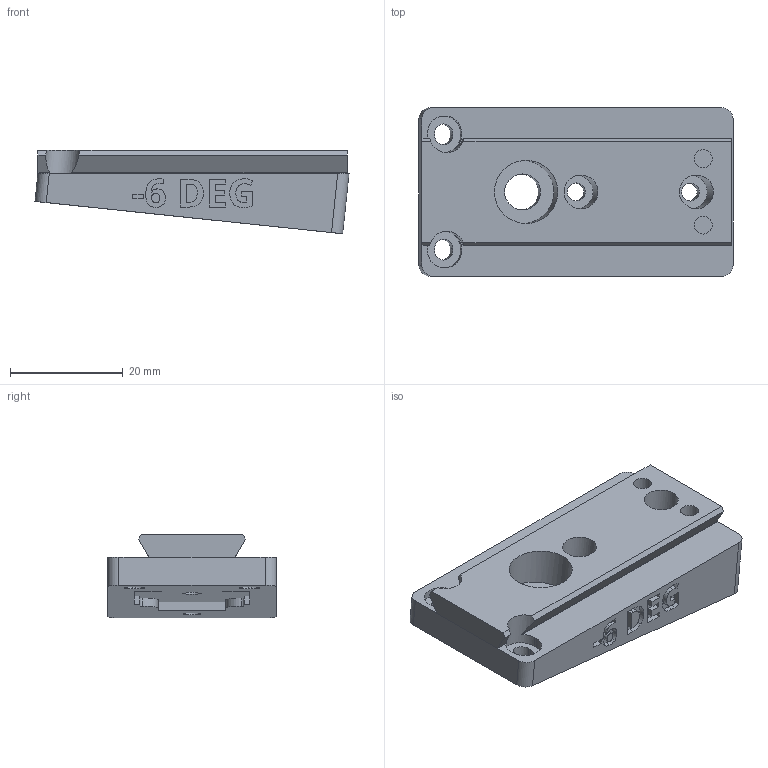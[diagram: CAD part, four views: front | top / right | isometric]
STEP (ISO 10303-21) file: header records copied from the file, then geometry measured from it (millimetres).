
FILE_DESCRIPTION(/* description */ ('STEP AP242 Edition 2','CAx-IF Rec.Pracs.---Representation and Presentation of Product Manufacturing Information (PMI)---4.0---2014-10-13','CAx-IF Rec.Pracs.---3D Tessellated Geometry---0.4---2014-09-14','2;1','CAx-IF Rec.Pracs.---User Defined Attributes---1.5---2016-08-15'),/* implementation_level */ '2;1');
FILE_NAME(/* name */ 'Camera Wedges - CAMERA MOUNTING WEDGE, NEG, -6 DEG',/* time_stamp */ '2026-07-08T20:37:05Z',/* author */ (''),/* organization */ (''),/* preprocessor_version */ 'ST-DEVELOPER v20',/* originating_system */ 'ONSHAPE BY PTC INC, 1.217',/* authorisation */ ' ');
FILE_SCHEMA (('AP242_MANAGED_MODEL_BASED_3D_ENGINEERING_MIM_LF { 1 0 10303 442 3 1 4 }'));
Length unit declared in the file: metre
Products named in the file (1): CAMERA MOUNTING WEDGE, NEG, -6 DEG
Bounding box: 55.83 x 30 x 14.84 mm (x, y, z)
Volume: 14393 mm3; surface area: 6563.6 mm2
Topology: 1 solids, 1 shells, 235 faces, 637 edges, 424 vertices
Faces by surface type: plane 125, bspline 68, cylinder 42
Full cylindrical faces by diameter (mm): 3.2 x4, 6 x2, 6.4 x1, 11.2 x1
Entity records: 7605 total; most frequent: CARTESIAN_POINT 2037, ORIENTED_EDGE 1258, DIRECTION 925, EDGE_CURVE 629, VERTEX_POINT 424, LINE 397, VECTOR 397, EDGE_LOOP 273
